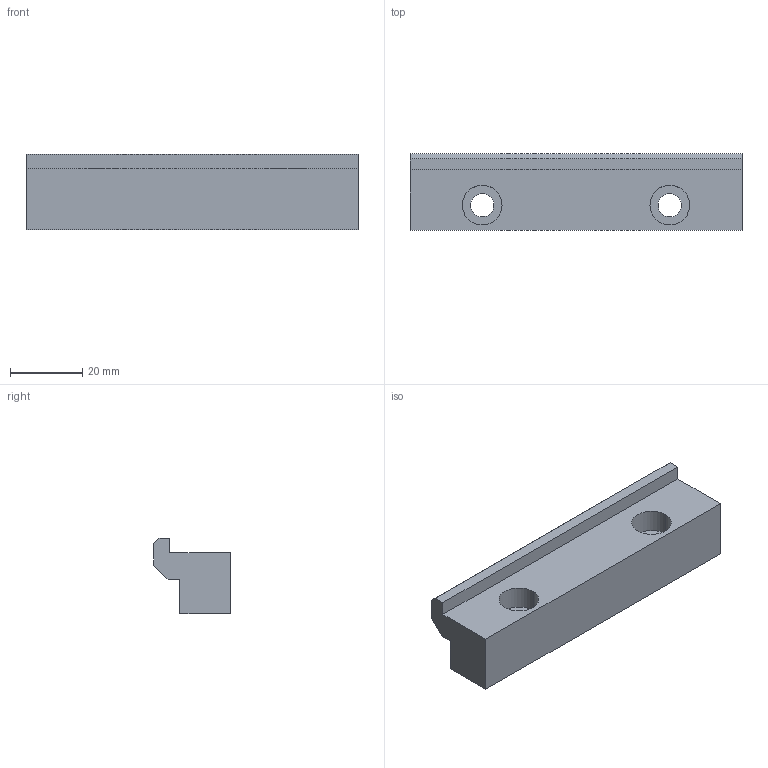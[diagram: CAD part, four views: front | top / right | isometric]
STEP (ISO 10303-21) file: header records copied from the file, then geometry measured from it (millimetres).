
FILE_DESCRIPTION((''),'2;1');
FILE_NAME('MB-100','2017-03-31T',('Owner'),(''),'PRO/ENGINEER BY PARAMETRIC TECHNOLOGY CORPORATION, 2009440','PRO/ENGINEER BY PARAMETRIC TECHNOLOGY CORPORATION, 2009440','');
FILE_SCHEMA(('CONFIG_CONTROL_DESIGN'));
Length unit declared in the file: millimetre
Products named in the file (1): MB-100
Bounding box: 92 x 21.3 x 21 mm (x, y, z)
Volume: 25817.2 mm3; surface area: 8835.4 mm2
Topology: 1 solids, 1 shells, 22 faces, 54 edges, 36 vertices
Faces by surface type: plane 14, cylinder 8
Entity records: 700 total; most frequent: DIRECTION 114, CARTESIAN_POINT 112, ORIENTED_EDGE 108, EDGE_CURVE 54, VECTOR 38, LINE 38, AXIS2_PLACEMENT_3D 38, VERTEX_POINT 36
